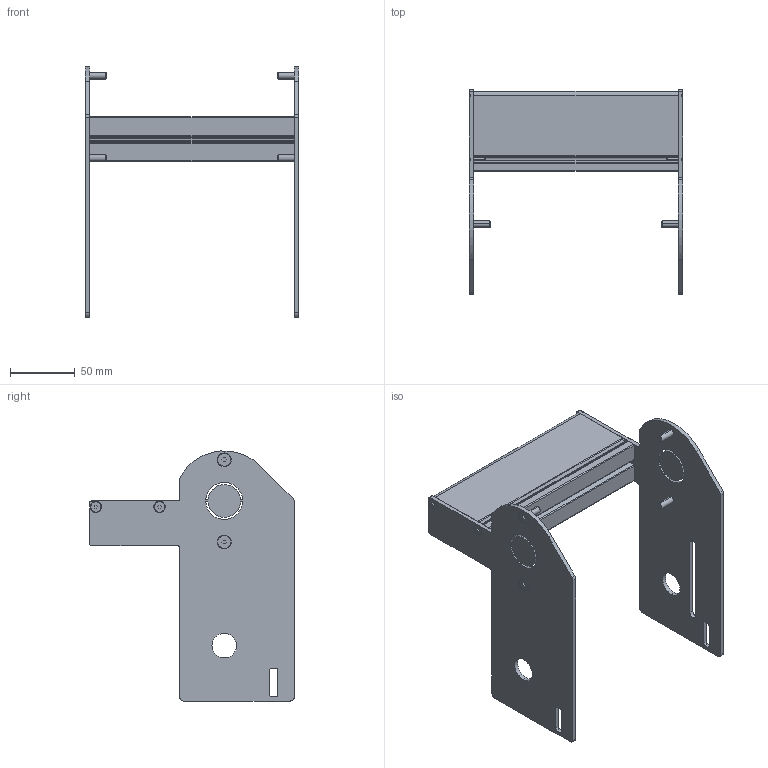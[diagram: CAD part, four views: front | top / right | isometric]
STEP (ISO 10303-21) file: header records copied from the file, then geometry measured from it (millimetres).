
FILE_DESCRIPTION((''),'2;1');
FILE_NAME('350712-06_ASM','2023-03-22T',('jenni.wallner'),(''),'PRO/ENGINEER BY PARAMETRIC TECHNOLOGY CORPORATION, 2012420','PRO/ENGINEER BY PARAMETRIC TECHNOLOGY CORPORATION, 2012420','');
FILE_SCHEMA(('CONFIG_CONTROL_DESIGN'));
Length unit declared in the file: inch
Products named in the file (6): 350669-06; 350667; 350668; 930412M; 930516M; 350712-06_ASM
Assembly tree (11 placements, depth 2):
  350712-06_ASM
    350669-06
    350667
    350668
    930412M  x4
    930516M  x4
Bounding box: 164.74 x 158.09 x 193.27 mm (x, y, z)
Volume: 238903.3 mm3; surface area: 161670.2 mm2
Topology: 11 solids, 11 shells, 336 faces, 878 edges, 572 vertices
Faces by surface type: plane 150, cylinder 138, cone 48
Entity records: 7843 total; most frequent: DIRECTION 1412, CARTESIAN_POINT 1329, ORIENTED_EDGE 1300, EDGE_CURVE 650, AXIS2_PLACEMENT_3D 511, VERTEX_POINT 428, VECTOR 390, LINE 390
